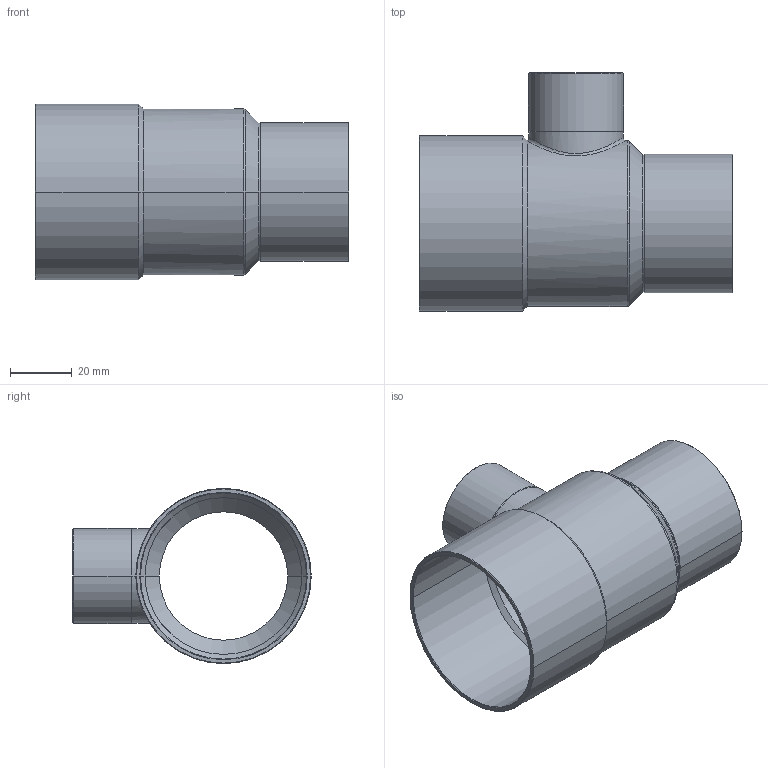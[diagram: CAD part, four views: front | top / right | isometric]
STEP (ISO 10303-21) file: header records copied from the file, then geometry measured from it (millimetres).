
FILE_DESCRIPTION((''),'2;1');
FILE_NAME('G:\Technics\CAD\Bauteile\15130\15130542842.stp','2005-11-03T13:43:15',('boden'),(''),'Autodesk Inventor 8','Autodesk Inventor 8','');
FILE_SCHEMA(('AUTOMOTIVE_DESIGN { 1 0 10303 214 1 1 1 1 }'));
Length unit declared in the file: millimetre
Products named in the file (1): 15130542842
Bounding box: 102 x 77.53 x 57.05 mm (x, y, z)
Volume: 27127 mm3; surface area: 36967.5 mm2
Topology: 1 solids, 1 shells, 59 faces, 133 edges, 75 vertices
Faces by surface type: cone 28, cylinder 24, plane 3, torus 2, bspline 2
Entity records: 2014 total; most frequent: CARTESIAN_POINT 660, DIRECTION 301, ORIENTED_EDGE 266, EDGE_CURVE 133, AXIS2_PLACEMENT_3D 124, VERTEX_POINT 75, CIRCLE 66, EDGE_LOOP 62
